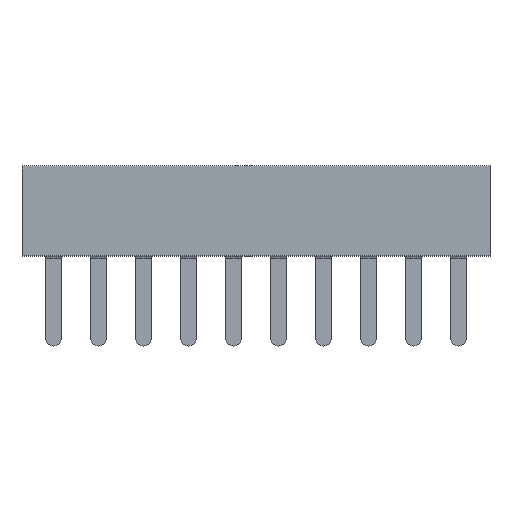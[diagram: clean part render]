
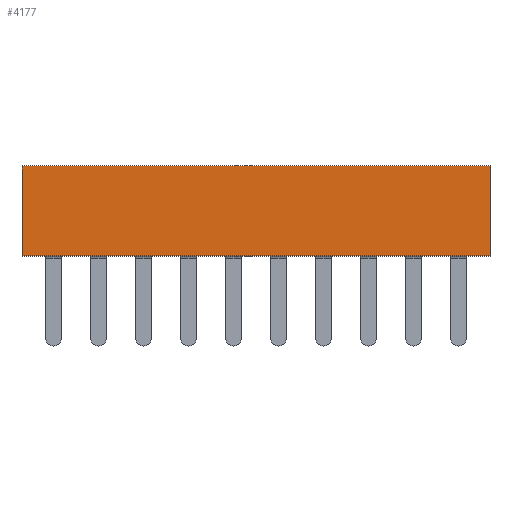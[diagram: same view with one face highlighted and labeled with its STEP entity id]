
A CAD part, top view. The second image highlights one B-rep face of the part: STEP entity #4177.
In plain terms, the highlighted planar face has unit normal (0, 0, 1).
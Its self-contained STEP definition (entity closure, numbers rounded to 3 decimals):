
#453 = DIRECTION ( 'NONE',  ( 1., 0., 0. ) ) ;
#526 = CARTESIAN_POINT ( 'NONE',  ( -1.094, 0.609, 0.8 ) ) ;
#531 = VECTOR ( 'NONE', #453, 1000. ) ;
#580 = LINE ( 'NONE', #4469, #2364 ) ;
#696 = EDGE_LOOP ( 'NONE', ( #1172, #4135, #3052, #1742 ) ) ;
#901 = VERTEX_POINT ( 'NONE', #526 ) ;
#1024 = FACE_OUTER_BOUND ( 'NONE', #696, .T. ) ;
#1172 = ORIENTED_EDGE ( 'NONE', *, *, #2814, .T. ) ;
#1319 = DIRECTION ( 'NONE',  ( 0., -1., 0. ) ) ;
#1572 = EDGE_CURVE ( 'NONE', #901, #1598, #3776, .T. ) ;
#1595 = CARTESIAN_POINT ( 'NONE',  ( -1.094, 0.609, 0.8 ) ) ;
#1598 = VERTEX_POINT ( 'NONE', #5633 ) ;
#1687 = CARTESIAN_POINT ( 'NONE',  ( 9.306, 0.609, 0.8 ) ) ;
#1742 = ORIENTED_EDGE ( 'NONE', *, *, #1572, .T. ) ;
#1880 = PLANE ( 'NONE',  #4017 ) ;
#2364 = VECTOR ( 'NONE', #3639, 1000. ) ;
#2491 = LINE ( 'NONE', #1687, #5102 ) ;
#2796 = DIRECTION ( 'NONE',  ( 1., 0., 0. ) ) ;
#2814 = EDGE_CURVE ( 'NONE', #1598, #4484, #5348, .T. ) ;
#3052 = ORIENTED_EDGE ( 'NONE', *, *, #3663, .T. ) ;
#3227 = VERTEX_POINT ( 'NONE', #4737 ) ;
#3346 = DIRECTION ( 'NONE',  ( 0., -1., 0. ) ) ;
#3599 = EDGE_CURVE ( 'NONE', #3227, #4484, #2491, .T. ) ;
#3639 = DIRECTION ( 'NONE',  ( -1., 0., 0. ) ) ;
#3663 = EDGE_CURVE ( 'NONE', #3227, #901, #580, .T. ) ;
#3776 = LINE ( 'NONE', #1595, #5666 ) ;
#3946 = CARTESIAN_POINT ( 'NONE',  ( 9.306, -1.391, 0.8 ) ) ;
#4017 = AXIS2_PLACEMENT_3D ( 'NONE', #4950, #5057, #2796 ) ;
#4135 = ORIENTED_EDGE ( 'NONE', *, *, #3599, .F. ) ;
#4177 = ADVANCED_FACE ( 'NONE', ( #1024 ), #1880, .T. ) ;
#4375 = CARTESIAN_POINT ( 'NONE',  ( -1.094, -1.391, 0.8 ) ) ;
#4469 = CARTESIAN_POINT ( 'NONE',  ( -1.094, 0.609, 0.8 ) ) ;
#4484 = VERTEX_POINT ( 'NONE', #3946 ) ;
#4737 = CARTESIAN_POINT ( 'NONE',  ( 9.306, 0.609, 0.8 ) ) ;
#4950 = CARTESIAN_POINT ( 'NONE',  ( 0., 0., 0.8 ) ) ;
#5057 = DIRECTION ( 'NONE',  ( 0., 0., 1. ) ) ;
#5102 = VECTOR ( 'NONE', #1319, 1000. ) ;
#5348 = LINE ( 'NONE', #4375, #531 ) ;
#5633 = CARTESIAN_POINT ( 'NONE',  ( -1.094, -1.391, 0.8 ) ) ;
#5666 = VECTOR ( 'NONE', #3346, 1000. ) ;
